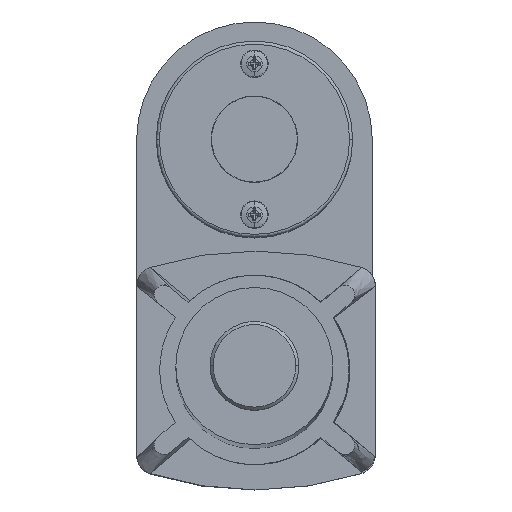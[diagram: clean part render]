
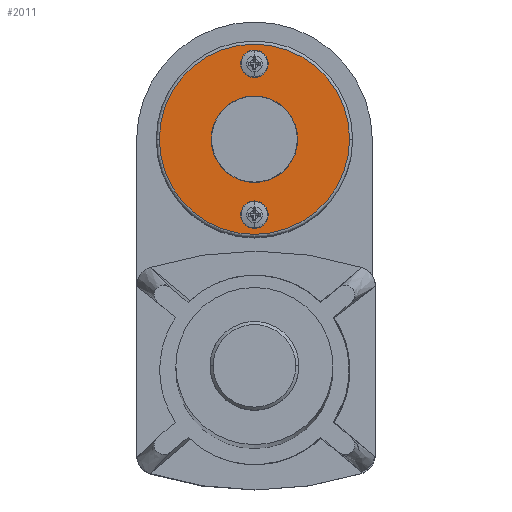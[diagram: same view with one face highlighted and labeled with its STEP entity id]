
A CAD part, top view. The second image highlights one B-rep face of the part: STEP entity #2011.
In plain terms, the highlighted planar face has unit normal (0, 0, 1).
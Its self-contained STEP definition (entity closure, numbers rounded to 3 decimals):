
#147 = VERTEX_POINT ( 'NONE', #9229 ) ;
#258 = DIRECTION ( 'NONE',  ( 0., 0., 1. ) ) ;
#411 = DIRECTION ( 'NONE',  ( 0., 0., 1. ) ) ;
#586 = AXIS2_PLACEMENT_3D ( 'NONE', #10506, #258, #1099 ) ;
#1022 = VERTEX_POINT ( 'NONE', #10734 ) ;
#1034 = EDGE_CURVE ( 'NONE', #1022, #4413, #6792, .T. ) ;
#1099 = DIRECTION ( 'NONE',  ( -1., 0., 0. ) ) ;
#1218 = AXIS2_PLACEMENT_3D ( 'NONE', #4474, #10413, #9470 ) ;
#1250 = DIRECTION ( 'NONE',  ( -1., 0., 0. ) ) ;
#1331 = ORIENTED_EDGE ( 'NONE', *, *, #10984, .F. ) ;
#1420 = CARTESIAN_POINT ( 'NONE',  ( 41.148, -7.238, 406.098 ) ) ;
#1441 = DIRECTION ( 'NONE',  ( -1., 0., 0. ) ) ;
#1704 = DIRECTION ( 'NONE',  ( 0., 0., 1. ) ) ;
#2011 = ADVANCED_FACE ( 'NONE', ( #5020, #9925, #8075 ), #2412, .T. ) ;
#2072 = ORIENTED_EDGE ( 'NONE', *, *, #1034, .T. ) ;
#2149 = VERTEX_POINT ( 'NONE', #2487 ) ;
#2162 = DIRECTION ( 'NONE',  ( 0., 0., 1. ) ) ;
#2412 = PLANE ( 'NONE',  #1218 ) ;
#2487 = CARTESIAN_POINT ( 'NONE',  ( 41.148, -56.038, 406.098 ) ) ;
#2690 = EDGE_CURVE ( 'NONE', #2149, #147, #5412, .T. ) ;
#2829 = CIRCLE ( 'NONE', #7342, 30.75 ) ;
#3060 = DIRECTION ( 'NONE',  ( 0., 0., 1. ) ) ;
#3088 = CARTESIAN_POINT ( 'NONE',  ( 38.608, -31.638, 406.098 ) ) ;
#3200 = VERTEX_POINT ( 'NONE', #10910 ) ;
#3380 = DIRECTION ( 'NONE',  ( -1., 0., 0. ) ) ;
#3513 = AXIS2_PLACEMENT_3D ( 'NONE', #3088, #2162, #1441 ) ;
#3627 = ORIENTED_EDGE ( 'NONE', *, *, #6612, .T. ) ;
#4189 = CARTESIAN_POINT ( 'NONE',  ( 38.608, -31.638, 406.098 ) ) ;
#4413 = VERTEX_POINT ( 'NONE', #8181 ) ;
#4474 = CARTESIAN_POINT ( 'NONE',  ( 38.608, -31.638, 406.098 ) ) ;
#5020 = FACE_BOUND ( 'NONE', #7268, .T. ) ;
#5187 = ORIENTED_EDGE ( 'NONE', *, *, #9743, .F. ) ;
#5412 = CIRCLE ( 'NONE', #8310, 2.54 ) ;
#5704 = ORIENTED_EDGE ( 'NONE', *, *, #2690, .F. ) ;
#6612 = EDGE_CURVE ( 'NONE', #4413, #1022, #2829, .T. ) ;
#6792 = CIRCLE ( 'NONE', #3513, 30.75 ) ;
#7268 = EDGE_LOOP ( 'NONE', ( #5187, #5704 ) ) ;
#7330 = CARTESIAN_POINT ( 'NONE',  ( 38.608, -7.238, 406.098 ) ) ;
#7342 = AXIS2_PLACEMENT_3D ( 'NONE', #4189, #1704, #3380 ) ;
#7531 = EDGE_CURVE ( 'NONE', #7835, #3200, #9187, .T. ) ;
#7642 = AXIS2_PLACEMENT_3D ( 'NONE', #7330, #9116, #9919 ) ;
#7835 = VERTEX_POINT ( 'NONE', #1420 ) ;
#7897 = AXIS2_PLACEMENT_3D ( 'NONE', #7952, #411, #1250 ) ;
#7952 = CARTESIAN_POINT ( 'NONE',  ( 38.608, -7.238, 406.098 ) ) ;
#8075 = FACE_OUTER_BOUND ( 'NONE', #8779, .T. ) ;
#8181 = CARTESIAN_POINT ( 'NONE',  ( 7.858, -31.638, 406.098 ) ) ;
#8310 = AXIS2_PLACEMENT_3D ( 'NONE', #9860, #3060, #9024 ) ;
#8779 = EDGE_LOOP ( 'NONE', ( #3627, #2072 ) ) ;
#9024 = DIRECTION ( 'NONE',  ( -1., 0., 0. ) ) ;
#9116 = DIRECTION ( 'NONE',  ( 0., 0., 1. ) ) ;
#9187 = CIRCLE ( 'NONE', #7642, 2.54 ) ;
#9229 = CARTESIAN_POINT ( 'NONE',  ( 36.068, -56.038, 406.098 ) ) ;
#9343 = CIRCLE ( 'NONE', #586, 2.54 ) ;
#9470 = DIRECTION ( 'NONE',  ( -1., 0., 0. ) ) ;
#9743 = EDGE_CURVE ( 'NONE', #147, #2149, #9343, .T. ) ;
#9860 = CARTESIAN_POINT ( 'NONE',  ( 38.608, -56.038, 406.098 ) ) ;
#9919 = DIRECTION ( 'NONE',  ( -1., 0., 0. ) ) ;
#9925 = FACE_BOUND ( 'NONE', #10827, .T. ) ;
#10137 = CIRCLE ( 'NONE', #7897, 2.54 ) ;
#10413 = DIRECTION ( 'NONE',  ( 0., 0., 1. ) ) ;
#10472 = ORIENTED_EDGE ( 'NONE', *, *, #7531, .F. ) ;
#10506 = CARTESIAN_POINT ( 'NONE',  ( 38.608, -56.038, 406.098 ) ) ;
#10734 = CARTESIAN_POINT ( 'NONE',  ( 69.358, -31.638, 406.098 ) ) ;
#10827 = EDGE_LOOP ( 'NONE', ( #1331, #10472 ) ) ;
#10910 = CARTESIAN_POINT ( 'NONE',  ( 36.068, -7.238, 406.098 ) ) ;
#10984 = EDGE_CURVE ( 'NONE', #3200, #7835, #10137, .T. ) ;
